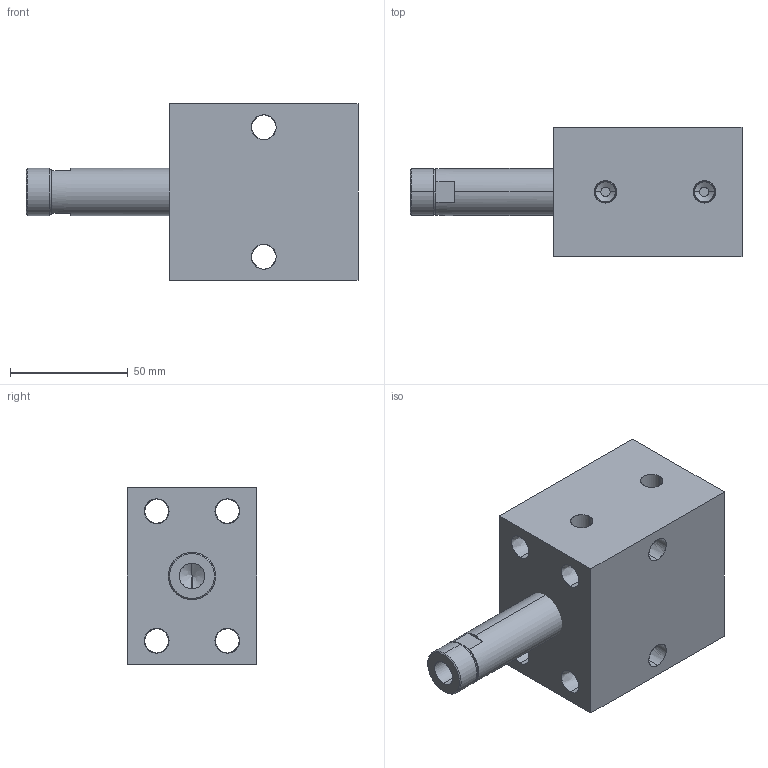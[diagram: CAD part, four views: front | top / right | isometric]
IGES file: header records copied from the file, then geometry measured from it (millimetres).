
Start section: SolidWorks IGES file using analytic representation for surfaces
Global section: file name: C:\Documents and Settings\rajib\Desktop\Rajib\BLOCK CYLINDER HYDRAULIC\0301-0306\IGS 0301-0306\0304.IGS; native system: SolidWorks 2007; preprocessor: SolidWorks 2007; author: rajib; date: 110121.100538; units: millimetre
Bounding box: 141 x 55 x 75 mm (x, y, z)
Surface area: 48381.6 mm2 (no closed solid volume)
Topology: 0 solids, 0 shells, 80 faces, 1752 edges, 1750 vertices
Faces by surface type: revolution 58, bspline 22
